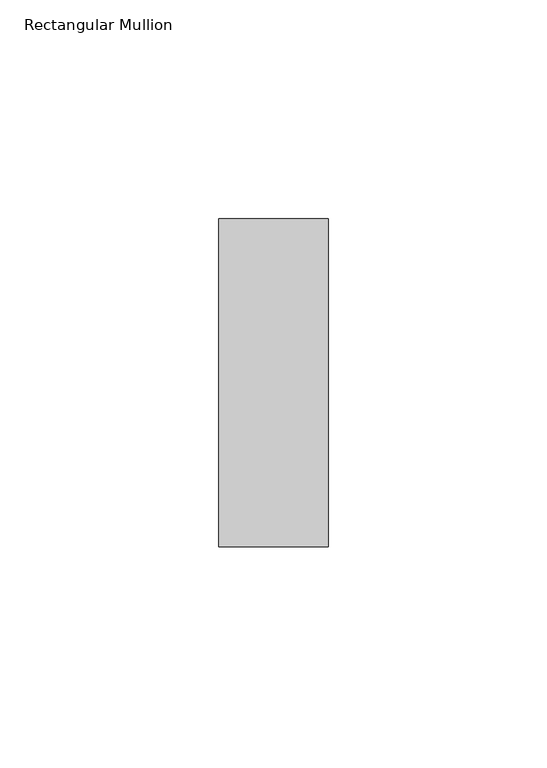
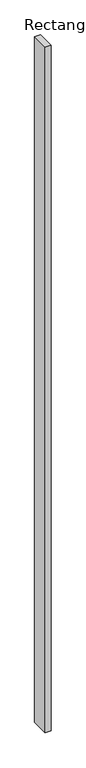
"""IFC4 building model written with IfcOpenShell, lengths in millimetres: member geometry, Rectangular Mullion : Batten_Aluminium_Modinex_AluBatten_25x75_AfricanEbony."""

from ifc_helpers import new_model, si_unit, frame, origin, place, context, project, spatial, polyline, outline, extrude, source, transform, mapped, element, save


def rectangular_mullion_b3f0cc74(model_context):
    return source(origin(), model_context, "Body", "SweptSolid", [
        extrude(outline(polyline([(12.5, 75.0), (12.5, 0.0), (-12.5, 0.0), (-12.5, 75.0), (12.5, 75.0)])), frame((0.0, 0.0, -3000.0), z_axis=(0.0, 0.0, 1.0), x_axis=(1.0, 0.0, 0.0)), (0.0, 0.0, 1.0), 3000.0),
    ])


if __name__ == "__main__":
    model = new_model("IFC4")
    model_context = context("Model", 3, world=origin())
    ifc_project = project(units=[si_unit("LENGTHUNIT", "METRE", prefix="MILLI")], contexts=[model_context])
    site = spatial("IfcSite", under=ifc_project)
    building = spatial("IfcBuilding", under=site)
    placement = place(None, origin())
    rectangular_mullion_shape = rectangular_mullion_b3f0cc74(model_context)
    element("IfcMember", 1, ObjectType="Rectangular Mullion : Batten_Aluminium_Modinex_AluBatten_25x75_AfricanEbony", at=placement, inside=building, context=model_context, shape_type="MappedRepresentation", body=[
        mapped(rectangular_mullion_shape, transform((0.0, 0.0, 0.0), x_axis=(1.0, 0.0, 0.0), y_axis=(0.0, 1.0, 0.0), z_axis=(0.0, 0.0, 1.0))),
    ])
    save(model, "model.ifc")
